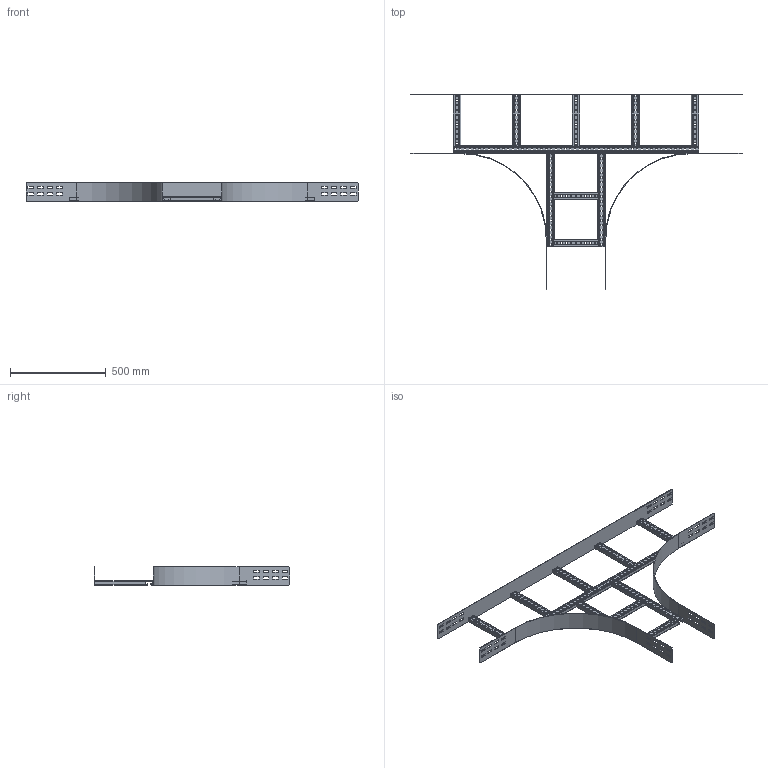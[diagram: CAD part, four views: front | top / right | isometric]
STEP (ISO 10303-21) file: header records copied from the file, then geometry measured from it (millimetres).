
FILE_DESCRIPTION(('Creo Elements/Direct Modeling STEP Export'),'2;1');
FILE_NAME('WPTP10-30-45.stp','2016-06-03T 7:32:51',(''),(''),'PTC Creo Elements/Direct Modeling STEP processor for AP214 (Solid Model)','PTC Creo Elements/Direct Modeling 19.0C 15-Aug-2015 (C) Parametric Technology GmbH','');
FILE_SCHEMA(('AUTOMOTIVE_DESIGN { 1 0 10303 214 1 1 1 1 }'));
Length unit declared in the file: millimetre
Products named in the file (7): WPBI_100; WPKSP2_300.1; WPTPS30.1; WPKS30; WPAAG_100-30; WPKSP1-30; WPTP10-30-45
Assembly tree (13 placements, depth 2):
  WPTP10-30-45
    WPKSP1-30
    WPKS30  x2
    WPTPS30.1  x5
    WPAAG_100-30
    WPKSP2_300.1  x2
    WPBI_100  x2
Bounding box: 1735 x 1023 x 95 mm (x, y, z)
Volume: 1740941.6 mm3; surface area: 1622322.5 mm2
Topology: 13 solids, 13 shells, 1304 faces, 3834 edges, 2556 vertices
Faces by surface type: plane 776, cylinder 528
Entity records: 23473 total; most frequent: CARTESIAN_POINT 4038, ORIENTED_EDGE 4032, DIRECTION 3906, EDGE_CURVE 2016, VECTOR 1482, LINE 1482, VERTEX_POINT 1344, AXIS2_PLACEMENT_3D 1212
